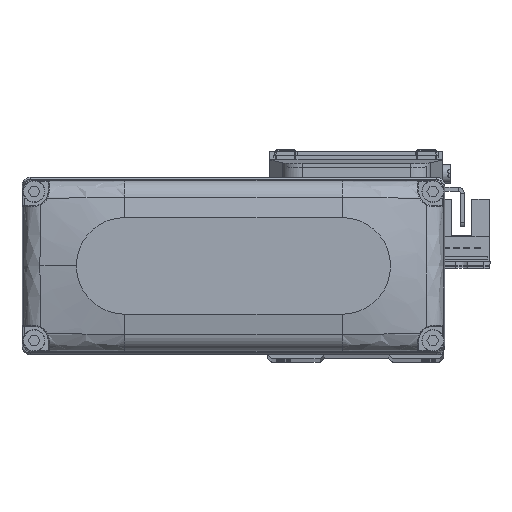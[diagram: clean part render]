
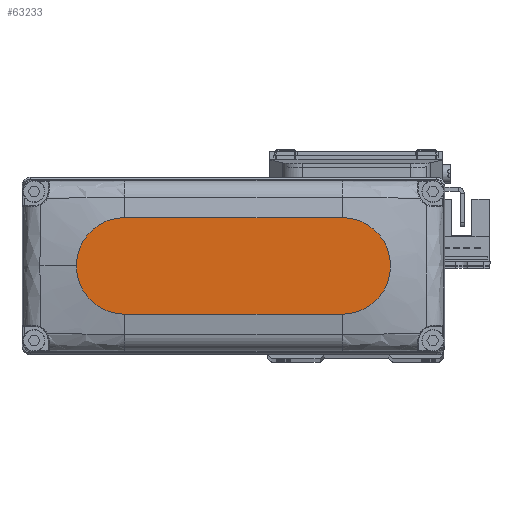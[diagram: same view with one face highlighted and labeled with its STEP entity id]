
A CAD part, top view. The second image highlights one B-rep face of the part: STEP entity #63233.
In plain terms, the highlighted planar face has unit normal (0, 0, 1).
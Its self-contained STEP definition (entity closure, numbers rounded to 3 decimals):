
#249 = CARTESIAN_POINT ( 'NONE',  ( 27., 12., 25. ) ) ;
#625 = DIRECTION ( 'NONE',  ( 0., 0., 1. ) ) ;
#3382 = DIRECTION ( 'NONE',  ( -1., 0., 0. ) ) ;
#5064 = AXIS2_PLACEMENT_3D ( 'NONE', #9540, #34672, #58720 ) ;
#5593 = DIRECTION ( 'NONE',  ( 0., 0., 1. ) ) ;
#7606 = LINE ( 'NONE', #31663, #40513 ) ;
#8851 = EDGE_CURVE ( 'NONE', #20117, #15470, #76391, .T. ) ;
#9540 = CARTESIAN_POINT ( 'NONE',  ( 0., 0., 25. ) ) ;
#13186 = EDGE_CURVE ( 'NONE', #35201, #31279, #34018, .T. ) ;
#14201 = ORIENTED_EDGE ( 'NONE', *, *, #76310, .T. ) ;
#14225 = EDGE_CURVE ( 'NONE', #31279, #34338, #7606, .T. ) ;
#15470 = VERTEX_POINT ( 'NONE', #249 ) ;
#16374 = CARTESIAN_POINT ( 'NONE',  ( -27., -12., 25. ) ) ;
#20117 = VERTEX_POINT ( 'NONE', #42338 ) ;
#24704 = DIRECTION ( 'NONE',  ( 1., 0., 0. ) ) ;
#24958 = ORIENTED_EDGE ( 'NONE', *, *, #14225, .T. ) ;
#26250 = AXIS2_PLACEMENT_3D ( 'NONE', #54677, #625, #24704 ) ;
#29133 = CARTESIAN_POINT ( 'NONE',  ( 27., 0., 25. ) ) ;
#29642 = DIRECTION ( 'NONE',  ( 1., 0., 0. ) ) ;
#31279 = VERTEX_POINT ( 'NONE', #16374 ) ;
#31663 = CARTESIAN_POINT ( 'NONE',  ( -27., -12., 25. ) ) ;
#33364 = LINE ( 'NONE', #57414, #34361 ) ;
#34018 = CIRCLE ( 'NONE', #35714, 12. ) ;
#34338 = VERTEX_POINT ( 'NONE', #36395 ) ;
#34361 = VECTOR ( 'NONE', #3382, 1000. ) ;
#34672 = DIRECTION ( 'NONE',  ( 0., 0., 1. ) ) ;
#35201 = VERTEX_POINT ( 'NONE', #55015 ) ;
#35714 = AXIS2_PLACEMENT_3D ( 'NONE', #59621, #5593, #29642 ) ;
#36395 = CARTESIAN_POINT ( 'NONE',  ( 27., -12., 25. ) ) ;
#38746 = EDGE_CURVE ( 'NONE', #15470, #35201, #33364, .T. ) ;
#39558 = FACE_OUTER_BOUND ( 'NONE', #59811, .T. ) ;
#40513 = VECTOR ( 'NONE', #55748, 1000. ) ;
#42338 = CARTESIAN_POINT ( 'NONE',  ( 39., 0., 25. ) ) ;
#42371 = AXIS2_PLACEMENT_3D ( 'NONE', #29133, #53208, #77283 ) ;
#49092 = ORIENTED_EDGE ( 'NONE', *, *, #38746, .T. ) ;
#50971 = ORIENTED_EDGE ( 'NONE', *, *, #8851, .T. ) ;
#53208 = DIRECTION ( 'NONE',  ( 0., 0., 1. ) ) ;
#54677 = CARTESIAN_POINT ( 'NONE',  ( 27., 0., 25. ) ) ;
#55015 = CARTESIAN_POINT ( 'NONE',  ( -27., 12., 25. ) ) ;
#55748 = DIRECTION ( 'NONE',  ( 1., 0., 0. ) ) ;
#56037 = ORIENTED_EDGE ( 'NONE', *, *, #13186, .T. ) ;
#57414 = CARTESIAN_POINT ( 'NONE',  ( -27., 12., 25. ) ) ;
#58720 = DIRECTION ( 'NONE',  ( 1., 0., 0. ) ) ;
#59621 = CARTESIAN_POINT ( 'NONE',  ( -27., 0., 25. ) ) ;
#59811 = EDGE_LOOP ( 'NONE', ( #49092, #56037, #24958, #14201, #50971 ) ) ;
#60259 = CIRCLE ( 'NONE', #26250, 12. ) ;
#63233 = ADVANCED_FACE ( 'NONE', ( #39558 ), #63591, .T. ) ;
#63591 = PLANE ( 'NONE',  #5064 ) ;
#76310 = EDGE_CURVE ( 'NONE', #34338, #20117, #60259, .T. ) ;
#76391 = CIRCLE ( 'NONE', #42371, 12. ) ;
#77283 = DIRECTION ( 'NONE',  ( 1., 0., 0. ) ) ;
